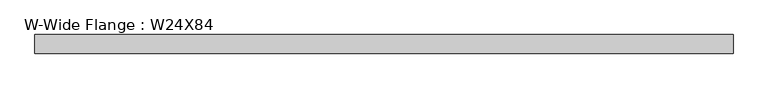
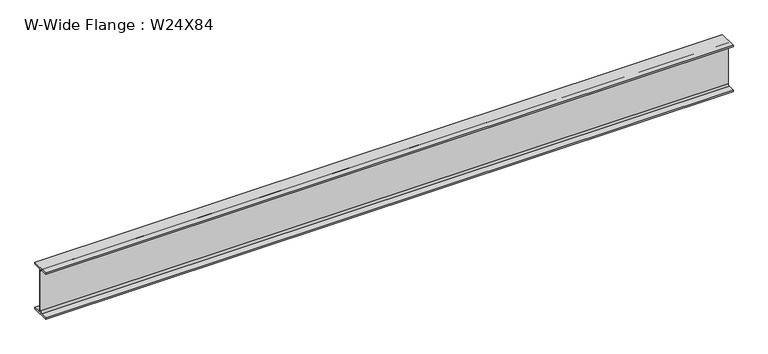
"""IFC4 building model written with IfcOpenShell, lengths in millimetres: beam geometry, W-Wide Flange : W24X84."""

from ifc_helpers import new_model, si_unit, point, frame, frame_2d, origin, place, context, project, spatial, polyline, circle_curve, trimmed, segment, composite_curve, outline, extrude, source, transform, mapped, element, save


def w_wide_flange_w24x84_97a9cff7(model_context):
    return source(origin(), model_context, "Body", "SweptSolid", [
        extrude(outline(composite_curve([segment(polyline([(114.554, -286.512), (114.554, -306.07), (-114.554, -306.07), (-114.554, -286.512), (-29.2735, -286.512)]), True, "CONTINUOUS"), segment(trimmed(circle_curve(frame_2d((-29.2735, -263.2075)), 23.3045), [point((-29.2735, -286.512))], [point((-5.969, -263.2075))], True, "CARTESIAN"), True, "CONTINUOUS"), segment(polyline([(-5.969, -263.2075), (-5.969, 263.2075)]), True, "CONTINUOUS"), segment(trimmed(circle_curve(frame_2d((-29.2735, 263.2075)), 23.3045), [point((-5.969, 263.2075))], [point((-29.2735, 286.512))], True, "CARTESIAN"), True, "CONTINUOUS"), segment(polyline([(-29.2735, 286.512), (-114.554, 286.512), (-114.554, 306.07), (114.554, 306.07), (114.554, 286.512), (29.2735, 286.512)]), True, "CONTINUOUS"), segment(trimmed(circle_curve(frame_2d((29.2735, 263.2075)), 23.3045), [point((29.2735, 286.512))], [point((5.969, 263.2075))], True, "CARTESIAN"), True, "CONTINUOUS"), segment(polyline([(5.969, 263.2075), (5.969, -263.2075)]), True, "CONTINUOUS"), segment(trimmed(circle_curve(frame_2d((29.2735, -263.2075)), 23.3045), [point((5.969, -263.2075))], [point((29.2735, -286.512))], True, "CARTESIAN"), True, "CONTINUOUS"), segment(polyline([(29.2735, -286.512), (114.554, -286.512)]), True, "CONTINUOUS")], self_intersect=False)), frame((-4221.1128906, 0.0, 0.0), z_axis=(1.0, 0.0, 0.0), x_axis=(0.0, 1.0, 0.0)), (0.0, 0.0, 1.0), 8577.1632812),
    ])


if __name__ == "__main__":
    model = new_model("IFC4")
    model_context = context("Model", 3, world=origin())
    ifc_project = project(units=[si_unit("LENGTHUNIT", "METRE", prefix="MILLI")], contexts=[model_context])
    site = spatial("IfcSite", under=ifc_project)
    building = spatial("IfcBuilding", under=site)
    placement = place(None, origin())
    w_wide_flange_w24x84_shape = w_wide_flange_w24x84_97a9cff7(model_context)
    element("IfcBeam", 1, ObjectType="W-Wide Flange : W24X84", at=placement, inside=building, context=model_context, shape_type="MappedRepresentation", body=[
        mapped(w_wide_flange_w24x84_shape, transform((0.0, 0.0, 0.0), x_axis=(1.0, 0.0, 0.0), y_axis=(0.0, 1.0, 0.0), z_axis=(0.0, 0.0, 1.0))),
    ])
    save(model, "model.ifc")
